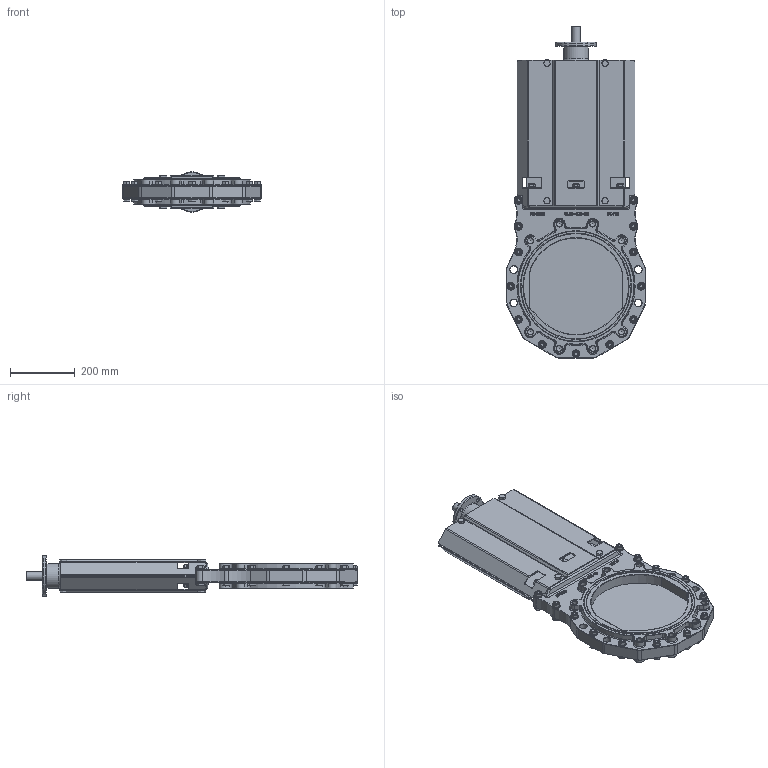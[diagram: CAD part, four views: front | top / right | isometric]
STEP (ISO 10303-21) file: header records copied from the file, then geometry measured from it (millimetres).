
FILE_DESCRIPTION(/* description */ (''),/* implementation_level */ '2;1');
FILE_NAME(/* name */ 'Rising stem knife gate valve with top flange DN300-10.stp',/* time_stamp */ '2025-04-21T17:21:54+08:00',/* author */ (''),/* organization */ (''),/* preprocessor_version */ 'ST-DEVELOPER v15',/* originating_system */ 'SIEMENS PLM Software NX 10.0',/* authorisation */ '');
FILE_SCHEMA (('AP203_CONFIGURATION_CONTROLLED_3D_DESIGN_OF_MECHANICAL_PARTS_AND_ASSEMBLIES_MIM_LF { 1 0 10303 403 2 1 2}'));
Products named in the file (1): Admi256412D81nzy
Bounding box: 430.37 x 1029.43 x 125 mm (x, y, z)
Volume: 9827640.4 mm3; surface area: 1618432.5 mm2
Topology: 1 solids, 18 shells, 2633 faces, 6348 edges, 3923 vertices
Faces by surface type: plane 1002, cylinder 718, cone 293, torus 256, bspline 202, extrusion 138, sphere 24
Full cylindrical faces by diameter (mm): 2 x4, 5.2 x1, 10.106 x6, 10.5 x2, 11.053 x17, 11.5 x4, 12 x32, 13 x36, 17.2 x21, 17.294 x16, 18 x2, 20 x6, 23 x8, 24 x32, 25 x1, 26 x1, 40 x1, 66 x1, 73 x1, 76 x1, 125 x1
Entity records: 79459 total; most frequent: CARTESIAN_POINT 21454, ORIENTED_EDGE 11750, DIRECTION 11300, EDGE_CURVE 5875, AXIS2_PLACEMENT_3D 4340, VERTEX_POINT 3863, EDGE_LOOP 3298, ADVANCED_FACE 2633
